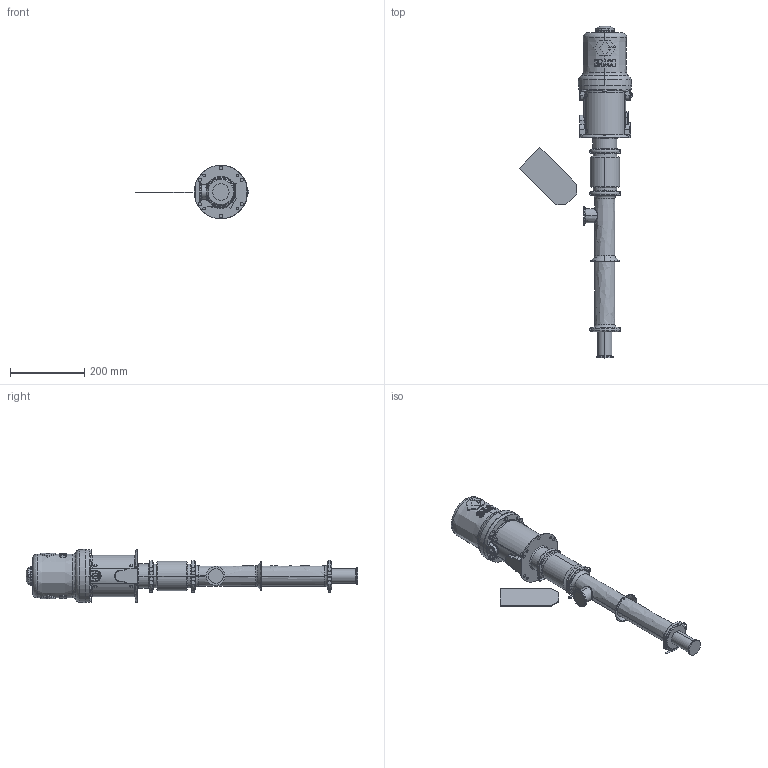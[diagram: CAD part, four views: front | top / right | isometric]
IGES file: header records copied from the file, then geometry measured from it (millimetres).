
Start section:  PTC IGES file: 965520-en-k.igs
Global section: file name: 965520-en-k.igs; native system: Creo Parametric by PTC Inc.; preprocessor: 2019030; author: qusrh3; organization: Unknown; date: 20200101.115909; units: inch
Bounding box: 306.46 x 894.82 x 144.27 mm (x, y, z)
Surface area: 398331.3 mm2 (no closed solid volume)
Topology: 0 solids, 0 shells, 917 faces, 4649 edges, 4649 vertices
Faces by surface type: bspline 574, revolution 343
